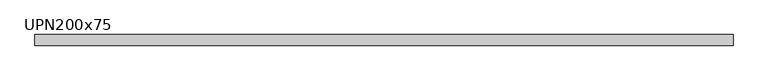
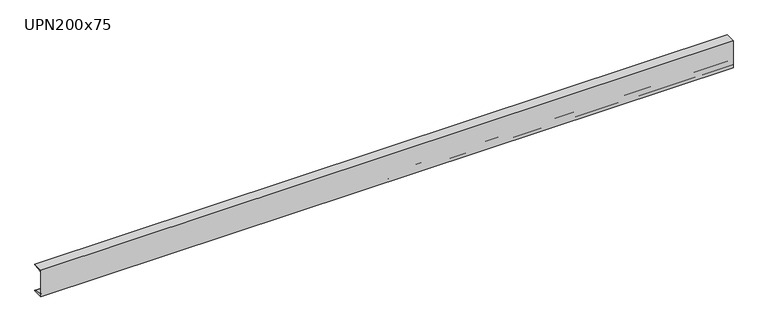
"""IFC4 building model written with IfcOpenShell, lengths in millimetres: beam geometry, M_MC Shapes : UPN200x75."""

from ifc_helpers import new_model, si_unit, point, frame, frame_2d, origin, place, context, project, spatial, polyline, circle_curve, trimmed, segment, composite_curve, outline, extrude, source, transform, mapped, element, save


def upn200x75_76623e6e(model_context):
    return source(origin(), model_context, "Body", "SweptSolid", [
        extrude(outline(composite_curve([segment(polyline([(-10.9, 100.0), (64.1, 100.0), (64.1, 99.0253247)]), True, "CONTINUOUS"), segment(trimmed(circle_curve(frame_2d((60.15, 99.0253247)), 3.95), [point((64.1, 99.0253247))], [point((60.7993773, 95.1290689))], False, "CARTESIAN"), True, "CONTINUOUS"), segment(polyline([(60.7993773, 95.1290689), (0.2512455, 85.0376935)]), True, "CONTINUOUS"), segment(trimmed(circle_curve(frame_2d((1.55, 77.2451819)), 7.9), [point((0.2512455, 85.0376935))], [point((-6.35, 77.2451819))], True, "CARTESIAN"), True, "CONTINUOUS"), segment(polyline([(-6.35, 77.2451819), (-6.35, -77.2451819)]), True, "CONTINUOUS"), segment(trimmed(circle_curve(frame_2d((1.55, -77.2451819)), 7.9), [point((-6.35, -77.2451819))], [point((0.2512455, -85.0376935))], True, "CARTESIAN"), True, "CONTINUOUS"), segment(polyline([(0.2512455, -85.0376935), (60.7993773, -95.1290689)]), True, "CONTINUOUS"), segment(trimmed(circle_curve(frame_2d((60.15, -99.0253247)), 3.95), [point((60.7993773, -95.1290689))], [point((64.1, -99.0253247))], False, "CARTESIAN"), True, "CONTINUOUS"), segment(polyline([(64.1, -99.0253247), (64.1, -100.0), (-10.9, -100.0), (-10.9, 100.0)]), True, "CONTINUOUS")], self_intersect=False)), frame((-2475.35, 0.0, 0.0), z_axis=(1.0, 0.0, 0.0), x_axis=(0.0, 1.0, 0.0)), (0.0, 0.0, 1.0), 4923.1),
    ])


if __name__ == "__main__":
    model = new_model("IFC4")
    model_context = context("Model", 3, world=origin())
    ifc_project = project(units=[si_unit("LENGTHUNIT", "METRE", prefix="MILLI")], contexts=[model_context])
    site = spatial("IfcSite", under=ifc_project)
    building = spatial("IfcBuilding", under=site)
    placement = place(None, origin())
    upn200x75_shape = upn200x75_76623e6e(model_context)
    element("IfcBeam", 1, ObjectType="M_MC Shapes : UPN200x75", at=placement, inside=building, context=model_context, shape_type="MappedRepresentation", body=[
        mapped(upn200x75_shape, transform((0.0, 0.0, 0.0), x_axis=(1.0, 0.0, 0.0), y_axis=(0.0, 1.0, 0.0), z_axis=(0.0, 0.0, 1.0))),
    ])
    save(model, "model.ifc")
